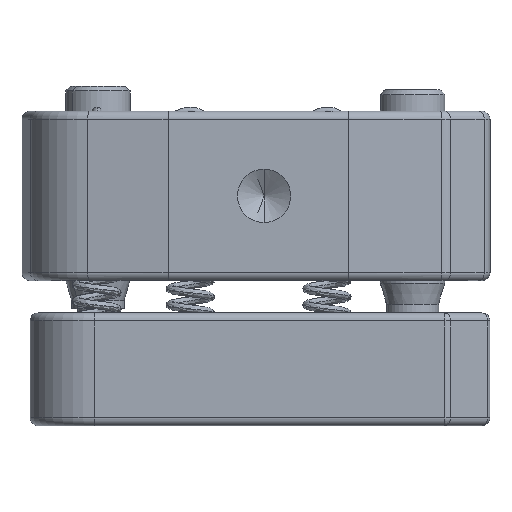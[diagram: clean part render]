
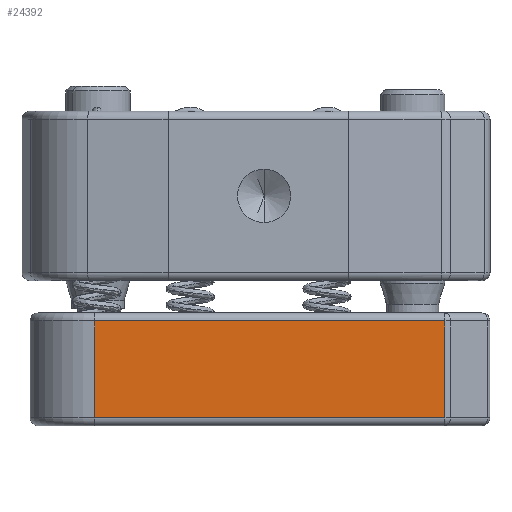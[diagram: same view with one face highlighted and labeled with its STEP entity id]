
A CAD part, front view. The second image highlights one B-rep face of the part: STEP entity #24392.
In plain terms, the highlighted planar face has unit normal (0, -1, 0).
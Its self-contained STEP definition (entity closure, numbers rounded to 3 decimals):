
#2600 = VERTEX_POINT ( 'NONE', #24591 ) ;
#3207 = DIRECTION ( 'NONE',  ( 1., 0., 0. ) ) ;
#3586 = VERTEX_POINT ( 'NONE', #27377 ) ;
#3836 = EDGE_LOOP ( 'NONE', ( #25769, #16818, #5119, #10267 ) ) ;
#4185 = DIRECTION ( 'NONE',  ( 0., -1., 0. ) ) ;
#4657 = VECTOR ( 'NONE', #24003, 1000. ) ;
#4729 = EDGE_CURVE ( 'NONE', #2600, #3586, #14053, .T. ) ;
#5048 = AXIS2_PLACEMENT_3D ( 'NONE', #23732, #4185, #12876 ) ;
#5119 = ORIENTED_EDGE ( 'NONE', *, *, #26005, .F. ) ;
#6084 = VERTEX_POINT ( 'NONE', #23099 ) ;
#6327 = FACE_OUTER_BOUND ( 'NONE', #3836, .T. ) ;
#6595 = LINE ( 'NONE', #15307, #4657 ) ;
#6821 = LINE ( 'NONE', #15535, #10043 ) ;
#7011 = CARTESIAN_POINT ( 'NONE',  ( -20.795, -18.716, -7.75 ) ) ;
#8053 = CARTESIAN_POINT ( 'NONE',  ( -10.295, -18.716, -7.75 ) ) ;
#9043 = EDGE_CURVE ( 'NONE', #6084, #25389, #27593, .T. ) ;
#10043 = VECTOR ( 'NONE', #24236, 1000. ) ;
#10267 = ORIENTED_EDGE ( 'NONE', *, *, #4729, .T. ) ;
#12876 = DIRECTION ( 'NONE',  ( 0., 0., -1. ) ) ;
#14053 = LINE ( 'NONE', #22760, #27617 ) ;
#15034 = PLANE ( 'NONE',  #5048 ) ;
#15307 = CARTESIAN_POINT ( 'NONE',  ( 0.905, -18.716, -14.25 ) ) ;
#15535 = CARTESIAN_POINT ( 'NONE',  ( -20.795, -18.716, -14.25 ) ) ;
#16745 = DIRECTION ( 'NONE',  ( -1., 0., 0. ) ) ;
#16818 = ORIENTED_EDGE ( 'NONE', *, *, #9043, .T. ) ;
#17461 = EDGE_CURVE ( 'NONE', #3586, #6084, #6595, .T. ) ;
#19252 = VECTOR ( 'NONE', #16745, 1000. ) ;
#22760 = CARTESIAN_POINT ( 'NONE',  ( 0.905, -18.716, -13.75 ) ) ;
#23099 = CARTESIAN_POINT ( 'NONE',  ( 0.905, -18.716, -7.75 ) ) ;
#23732 = CARTESIAN_POINT ( 'NONE',  ( -10.295, -18.716, -14.25 ) ) ;
#24003 = DIRECTION ( 'NONE',  ( 0., 0., 1. ) ) ;
#24236 = DIRECTION ( 'NONE',  ( 0., 0., 1. ) ) ;
#24392 = ADVANCED_FACE ( 'NONE', ( #6327 ), #15034, .T. ) ;
#24591 = CARTESIAN_POINT ( 'NONE',  ( -20.795, -18.716, -13.75 ) ) ;
#25389 = VERTEX_POINT ( 'NONE', #7011 ) ;
#25769 = ORIENTED_EDGE ( 'NONE', *, *, #17461, .T. ) ;
#26005 = EDGE_CURVE ( 'NONE', #2600, #25389, #6821, .T. ) ;
#27377 = CARTESIAN_POINT ( 'NONE',  ( 0.905, -18.716, -13.75 ) ) ;
#27593 = LINE ( 'NONE', #8053, #19252 ) ;
#27617 = VECTOR ( 'NONE', #3207, 1000. ) ;
